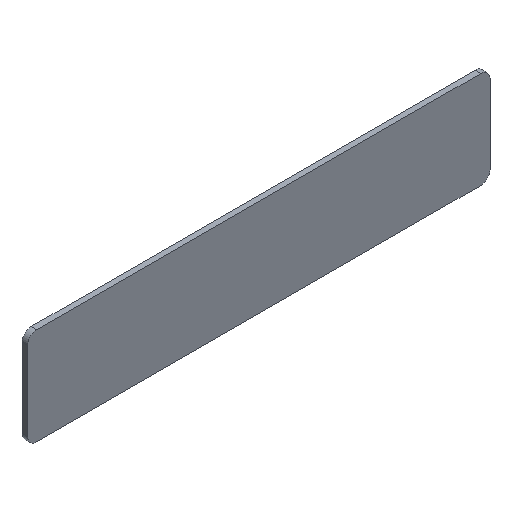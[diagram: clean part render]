
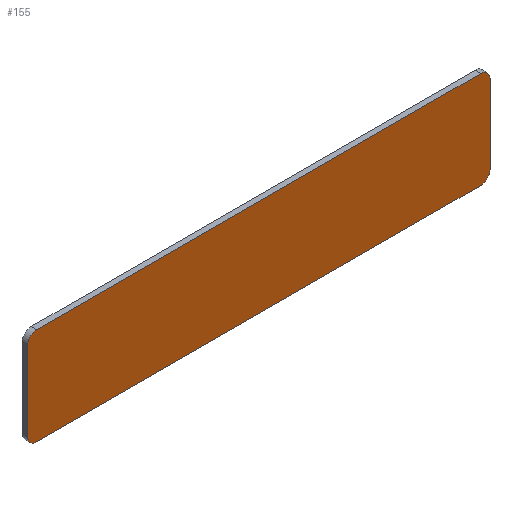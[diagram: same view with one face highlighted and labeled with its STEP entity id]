
A CAD part, isometric view. The second image highlights one B-rep face of the part: STEP entity #155.
In plain terms, the highlighted planar face has unit normal (0, -1, 0).
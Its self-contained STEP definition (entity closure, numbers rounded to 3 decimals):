
#39 = EDGE_CURVE('',#40,#42,#44,.T.);
#40 = VERTEX_POINT('',#41);
#41 = CARTESIAN_POINT('',(-103.,-1.25,-17.6));
#42 = VERTEX_POINT('',#43);
#43 = CARTESIAN_POINT('',(-103.,-1.25,17.6));
#44 = SURFACE_CURVE('',#45,(#49,#61),.PCURVE_S1.);
#45 = LINE('',#46,#47);
#46 = CARTESIAN_POINT('',(-103.,-1.25,-21.6));
#47 = VECTOR('',#48,1.);
#48 = DIRECTION('',(0.,0.,1.));
#49 = PCURVE('',#50,#55);
#50 = PLANE('',#51);
#51 = AXIS2_PLACEMENT_3D('',#52,#53,#54);
#52 = CARTESIAN_POINT('',(-103.,-1.25,-21.6));
#53 = DIRECTION('',(1.,0.,-0.));
#54 = DIRECTION('',(0.,0.,1.));
#55 = DEFINITIONAL_REPRESENTATION('',(#56),#60);
#56 = LINE('',#57,#58);
#57 = CARTESIAN_POINT('',(0.,0.));
#58 = VECTOR('',#59,1.);
#59 = DIRECTION('',(1.,0.));
#60 = ( GEOMETRIC_REPRESENTATION_CONTEXT(2) 
PARAMETRIC_REPRESENTATION_CONTEXT() REPRESENTATION_CONTEXT('2D SPACE',''
  ) );
#61 = PCURVE('',#62,#67);
#62 = PLANE('',#63);
#63 = AXIS2_PLACEMENT_3D('',#64,#65,#66);
#64 = CARTESIAN_POINT('',(-103.,-1.25,-21.6));
#65 = DIRECTION('',(-0.,1.,0.));
#66 = DIRECTION('',(0.,0.,1.));
#67 = DEFINITIONAL_REPRESENTATION('',(#68),#72);
#68 = LINE('',#69,#70);
#69 = CARTESIAN_POINT('',(0.,0.));
#70 = VECTOR('',#71,1.);
#71 = DIRECTION('',(1.,0.));
#72 = ( GEOMETRIC_REPRESENTATION_CONTEXT(2) 
PARAMETRIC_REPRESENTATION_CONTEXT() REPRESENTATION_CONTEXT('2D SPACE',''
  ) );
#90 = CYLINDRICAL_SURFACE('',#91,4.);
#91 = AXIS2_PLACEMENT_3D('',#92,#93,#94);
#92 = CARTESIAN_POINT('',(-99.,-1.25,-17.6));
#93 = DIRECTION('',(-0.,1.,0.));
#94 = DIRECTION('',(-1.,-0.,0.));
#144 = CYLINDRICAL_SURFACE('',#145,4.);
#145 = AXIS2_PLACEMENT_3D('',#146,#147,#148);
#146 = CARTESIAN_POINT('',(-99.,-1.25,17.6));
#147 = DIRECTION('',(-0.,1.,0.));
#148 = DIRECTION('',(-1.,-0.,0.));
#155 = ADVANCED_FACE('',(#156),#62,.F.);
#156 = FACE_BOUND('',#157,.F.);
#157 = EDGE_LOOP('',(#158,#188,#214,#215,#239,#267,#300,#328));
#158 = ORIENTED_EDGE('',*,*,#159,.F.);
#159 = EDGE_CURVE('',#160,#162,#164,.T.);
#160 = VERTEX_POINT('',#161);
#161 = CARTESIAN_POINT('',(-99.,-1.25,-21.6));
#162 = VERTEX_POINT('',#163);
#163 = CARTESIAN_POINT('',(99.,-1.25,-21.6));
#164 = SURFACE_CURVE('',#165,(#169,#176),.PCURVE_S1.);
#165 = LINE('',#166,#167);
#166 = CARTESIAN_POINT('',(-103.,-1.25,-21.6));
#167 = VECTOR('',#168,1.);
#168 = DIRECTION('',(1.,0.,-0.));
#169 = PCURVE('',#62,#170);
#170 = DEFINITIONAL_REPRESENTATION('',(#171),#175);
#171 = LINE('',#172,#173);
#172 = CARTESIAN_POINT('',(0.,0.));
#173 = VECTOR('',#174,1.);
#174 = DIRECTION('',(0.,1.));
#175 = ( GEOMETRIC_REPRESENTATION_CONTEXT(2) 
PARAMETRIC_REPRESENTATION_CONTEXT() REPRESENTATION_CONTEXT('2D SPACE',''
  ) );
#176 = PCURVE('',#177,#182);
#177 = PLANE('',#178);
#178 = AXIS2_PLACEMENT_3D('',#179,#180,#181);
#179 = CARTESIAN_POINT('',(-103.,-1.25,-21.6));
#180 = DIRECTION('',(0.,0.,1.));
#181 = DIRECTION('',(1.,0.,-0.));
#182 = DEFINITIONAL_REPRESENTATION('',(#183),#187);
#183 = LINE('',#184,#185);
#184 = CARTESIAN_POINT('',(0.,0.));
#185 = VECTOR('',#186,1.);
#186 = DIRECTION('',(1.,0.));
#187 = ( GEOMETRIC_REPRESENTATION_CONTEXT(2) 
PARAMETRIC_REPRESENTATION_CONTEXT() REPRESENTATION_CONTEXT('2D SPACE',''
  ) );
#188 = ORIENTED_EDGE('',*,*,#189,.F.);
#189 = EDGE_CURVE('',#40,#160,#190,.T.);
#190 = SURFACE_CURVE('',#191,(#196,#207),.PCURVE_S1.);
#191 = CIRCLE('',#192,4.);
#192 = AXIS2_PLACEMENT_3D('',#193,#194,#195);
#193 = CARTESIAN_POINT('',(-99.,-1.25,-17.6));
#194 = DIRECTION('',(0.,-1.,0.));
#195 = DIRECTION('',(0.,0.,1.));
#196 = PCURVE('',#62,#197);
#197 = DEFINITIONAL_REPRESENTATION('',(#198),#206);
#198 = ( BOUNDED_CURVE() B_SPLINE_CURVE(2,(#199,#200,#201,#202,#203,#204
,#205),.UNSPECIFIED.,.T.,.F.) B_SPLINE_CURVE_WITH_KNOTS((1,2,2,2,2,1),(
    -2.094,0.,2.094,4.189,6.283,
8.378),.UNSPECIFIED.) CURVE() GEOMETRIC_REPRESENTATION_ITEM() 
RATIONAL_B_SPLINE_CURVE((1.,0.5,1.,0.5,1.,0.5,1.)) REPRESENTATION_ITEM(
  '') );
#199 = CARTESIAN_POINT('',(8.,4.));
#200 = CARTESIAN_POINT('',(8.,-2.928));
#201 = CARTESIAN_POINT('',(2.,0.536));
#202 = CARTESIAN_POINT('',(-4.,4.));
#203 = CARTESIAN_POINT('',(2.,7.464));
#204 = CARTESIAN_POINT('',(8.,10.928));
#205 = CARTESIAN_POINT('',(8.,4.));
#206 = ( GEOMETRIC_REPRESENTATION_CONTEXT(2) 
PARAMETRIC_REPRESENTATION_CONTEXT() REPRESENTATION_CONTEXT('2D SPACE',''
  ) );
#207 = PCURVE('',#90,#208);
#208 = DEFINITIONAL_REPRESENTATION('',(#209),#213);
#209 = LINE('',#210,#211);
#210 = CARTESIAN_POINT('',(1.571,-0.));
#211 = VECTOR('',#212,1.);
#212 = DIRECTION('',(-1.,0.));
#213 = ( GEOMETRIC_REPRESENTATION_CONTEXT(2) 
PARAMETRIC_REPRESENTATION_CONTEXT() REPRESENTATION_CONTEXT('2D SPACE',''
  ) );
#214 = ORIENTED_EDGE('',*,*,#39,.T.);
#215 = ORIENTED_EDGE('',*,*,#216,.T.);
#216 = EDGE_CURVE('',#42,#217,#219,.T.);
#217 = VERTEX_POINT('',#218);
#218 = CARTESIAN_POINT('',(-99.,-1.25,21.6));
#219 = SURFACE_CURVE('',#220,(#225,#232),.PCURVE_S1.);
#220 = CIRCLE('',#221,4.);
#221 = AXIS2_PLACEMENT_3D('',#222,#223,#224);
#222 = CARTESIAN_POINT('',(-99.,-1.25,17.6));
#223 = DIRECTION('',(-0.,1.,0.));
#224 = DIRECTION('',(0.,0.,1.));
#225 = PCURVE('',#62,#226);
#226 = DEFINITIONAL_REPRESENTATION('',(#227),#231);
#227 = CIRCLE('',#228,4.);
#228 = AXIS2_PLACEMENT_2D('',#229,#230);
#229 = CARTESIAN_POINT('',(39.2,4.));
#230 = DIRECTION('',(1.,0.));
#231 = ( GEOMETRIC_REPRESENTATION_CONTEXT(2) 
PARAMETRIC_REPRESENTATION_CONTEXT() REPRESENTATION_CONTEXT('2D SPACE',''
  ) );
#232 = PCURVE('',#144,#233);
#233 = DEFINITIONAL_REPRESENTATION('',(#234),#238);
#234 = LINE('',#235,#236);
#235 = CARTESIAN_POINT('',(-4.712,0.));
#236 = VECTOR('',#237,1.);
#237 = DIRECTION('',(1.,0.));
#238 = ( GEOMETRIC_REPRESENTATION_CONTEXT(2) 
PARAMETRIC_REPRESENTATION_CONTEXT() REPRESENTATION_CONTEXT('2D SPACE',''
  ) );
#239 = ORIENTED_EDGE('',*,*,#240,.T.);
#240 = EDGE_CURVE('',#217,#241,#243,.T.);
#241 = VERTEX_POINT('',#242);
#242 = CARTESIAN_POINT('',(99.,-1.25,21.6));
#243 = SURFACE_CURVE('',#244,(#248,#255),.PCURVE_S1.);
#244 = LINE('',#245,#246);
#245 = CARTESIAN_POINT('',(-103.,-1.25,21.6));
#246 = VECTOR('',#247,1.);
#247 = DIRECTION('',(1.,0.,-0.));
#248 = PCURVE('',#62,#249);
#249 = DEFINITIONAL_REPRESENTATION('',(#250),#254);
#250 = LINE('',#251,#252);
#251 = CARTESIAN_POINT('',(43.2,0.));
#252 = VECTOR('',#253,1.);
#253 = DIRECTION('',(0.,1.));
#254 = ( GEOMETRIC_REPRESENTATION_CONTEXT(2) 
PARAMETRIC_REPRESENTATION_CONTEXT() REPRESENTATION_CONTEXT('2D SPACE',''
  ) );
#255 = PCURVE('',#256,#261);
#256 = PLANE('',#257);
#257 = AXIS2_PLACEMENT_3D('',#258,#259,#260);
#258 = CARTESIAN_POINT('',(-103.,-1.25,21.6));
#259 = DIRECTION('',(0.,0.,1.));
#260 = DIRECTION('',(1.,0.,-0.));
#261 = DEFINITIONAL_REPRESENTATION('',(#262),#266);
#262 = LINE('',#263,#264);
#263 = CARTESIAN_POINT('',(0.,0.));
#264 = VECTOR('',#265,1.);
#265 = DIRECTION('',(1.,0.));
#266 = ( GEOMETRIC_REPRESENTATION_CONTEXT(2) 
PARAMETRIC_REPRESENTATION_CONTEXT() REPRESENTATION_CONTEXT('2D SPACE',''
  ) );
#267 = ORIENTED_EDGE('',*,*,#268,.F.);
#268 = EDGE_CURVE('',#269,#241,#271,.T.);
#269 = VERTEX_POINT('',#270);
#270 = CARTESIAN_POINT('',(103.,-1.25,17.6));
#271 = SURFACE_CURVE('',#272,(#277,#288),.PCURVE_S1.);
#272 = CIRCLE('',#273,4.);
#273 = AXIS2_PLACEMENT_3D('',#274,#275,#276);
#274 = CARTESIAN_POINT('',(99.,-1.25,17.6));
#275 = DIRECTION('',(0.,-1.,0.));
#276 = DIRECTION('',(0.,0.,1.));
#277 = PCURVE('',#62,#278);
#278 = DEFINITIONAL_REPRESENTATION('',(#279),#287);
#279 = ( BOUNDED_CURVE() B_SPLINE_CURVE(2,(#280,#281,#282,#283,#284,#285
,#286),.UNSPECIFIED.,.T.,.F.) B_SPLINE_CURVE_WITH_KNOTS((1,2,2,2,2,1),(
    -2.094,0.,2.094,4.189,6.283,
8.378),.UNSPECIFIED.) CURVE() GEOMETRIC_REPRESENTATION_ITEM() 
RATIONAL_B_SPLINE_CURVE((1.,0.5,1.,0.5,1.,0.5,1.)) REPRESENTATION_ITEM(
  '') );
#280 = CARTESIAN_POINT('',(43.2,202.));
#281 = CARTESIAN_POINT('',(43.2,195.072));
#282 = CARTESIAN_POINT('',(37.2,198.536));
#283 = CARTESIAN_POINT('',(31.2,202.));
#284 = CARTESIAN_POINT('',(37.2,205.464));
#285 = CARTESIAN_POINT('',(43.2,208.928));
#286 = CARTESIAN_POINT('',(43.2,202.));
#287 = ( GEOMETRIC_REPRESENTATION_CONTEXT(2) 
PARAMETRIC_REPRESENTATION_CONTEXT() REPRESENTATION_CONTEXT('2D SPACE',''
  ) );
#288 = PCURVE('',#289,#294);
#289 = CYLINDRICAL_SURFACE('',#290,4.);
#290 = AXIS2_PLACEMENT_3D('',#291,#292,#293);
#291 = CARTESIAN_POINT('',(99.,-1.25,17.6));
#292 = DIRECTION('',(-0.,1.,0.));
#293 = DIRECTION('',(1.,0.,-0.));
#294 = DEFINITIONAL_REPRESENTATION('',(#295),#299);
#295 = LINE('',#296,#297);
#296 = CARTESIAN_POINT('',(4.712,-0.));
#297 = VECTOR('',#298,1.);
#298 = DIRECTION('',(-1.,0.));
#299 = ( GEOMETRIC_REPRESENTATION_CONTEXT(2) 
PARAMETRIC_REPRESENTATION_CONTEXT() REPRESENTATION_CONTEXT('2D SPACE',''
  ) );
#300 = ORIENTED_EDGE('',*,*,#301,.F.);
#301 = EDGE_CURVE('',#302,#269,#304,.T.);
#302 = VERTEX_POINT('',#303);
#303 = CARTESIAN_POINT('',(103.,-1.25,-17.6));
#304 = SURFACE_CURVE('',#305,(#309,#316),.PCURVE_S1.);
#305 = LINE('',#306,#307);
#306 = CARTESIAN_POINT('',(103.,-1.25,-21.6));
#307 = VECTOR('',#308,1.);
#308 = DIRECTION('',(0.,0.,1.));
#309 = PCURVE('',#62,#310);
#310 = DEFINITIONAL_REPRESENTATION('',(#311),#315);
#311 = LINE('',#312,#313);
#312 = CARTESIAN_POINT('',(0.,206.));
#313 = VECTOR('',#314,1.);
#314 = DIRECTION('',(1.,0.));
#315 = ( GEOMETRIC_REPRESENTATION_CONTEXT(2) 
PARAMETRIC_REPRESENTATION_CONTEXT() REPRESENTATION_CONTEXT('2D SPACE',''
  ) );
#316 = PCURVE('',#317,#322);
#317 = PLANE('',#318);
#318 = AXIS2_PLACEMENT_3D('',#319,#320,#321);
#319 = CARTESIAN_POINT('',(103.,-1.25,-21.6));
#320 = DIRECTION('',(1.,0.,-0.));
#321 = DIRECTION('',(0.,0.,1.));
#322 = DEFINITIONAL_REPRESENTATION('',(#323),#327);
#323 = LINE('',#324,#325);
#324 = CARTESIAN_POINT('',(0.,0.));
#325 = VECTOR('',#326,1.);
#326 = DIRECTION('',(1.,0.));
#327 = ( GEOMETRIC_REPRESENTATION_CONTEXT(2) 
PARAMETRIC_REPRESENTATION_CONTEXT() REPRESENTATION_CONTEXT('2D SPACE',''
  ) );
#328 = ORIENTED_EDGE('',*,*,#329,.T.);
#329 = EDGE_CURVE('',#302,#162,#330,.T.);
#330 = SURFACE_CURVE('',#331,(#336,#343),.PCURVE_S1.);
#331 = CIRCLE('',#332,4.);
#332 = AXIS2_PLACEMENT_3D('',#333,#334,#335);
#333 = CARTESIAN_POINT('',(99.,-1.25,-17.6));
#334 = DIRECTION('',(-0.,1.,0.));
#335 = DIRECTION('',(0.,0.,1.));
#336 = PCURVE('',#62,#337);
#337 = DEFINITIONAL_REPRESENTATION('',(#338),#342);
#338 = CIRCLE('',#339,4.);
#339 = AXIS2_PLACEMENT_2D('',#340,#341);
#340 = CARTESIAN_POINT('',(4.,202.));
#341 = DIRECTION('',(1.,0.));
#342 = ( GEOMETRIC_REPRESENTATION_CONTEXT(2) 
PARAMETRIC_REPRESENTATION_CONTEXT() REPRESENTATION_CONTEXT('2D SPACE',''
  ) );
#343 = PCURVE('',#344,#349);
#344 = CYLINDRICAL_SURFACE('',#345,4.);
#345 = AXIS2_PLACEMENT_3D('',#346,#347,#348);
#346 = CARTESIAN_POINT('',(99.,-1.25,-17.6));
#347 = DIRECTION('',(-0.,1.,0.));
#348 = DIRECTION('',(1.,0.,-0.));
#349 = DEFINITIONAL_REPRESENTATION('',(#350),#354);
#350 = LINE('',#351,#352);
#351 = CARTESIAN_POINT('',(-1.571,0.));
#352 = VECTOR('',#353,1.);
#353 = DIRECTION('',(1.,0.));
#354 = ( GEOMETRIC_REPRESENTATION_CONTEXT(2) 
PARAMETRIC_REPRESENTATION_CONTEXT() REPRESENTATION_CONTEXT('2D SPACE',''
  ) );
